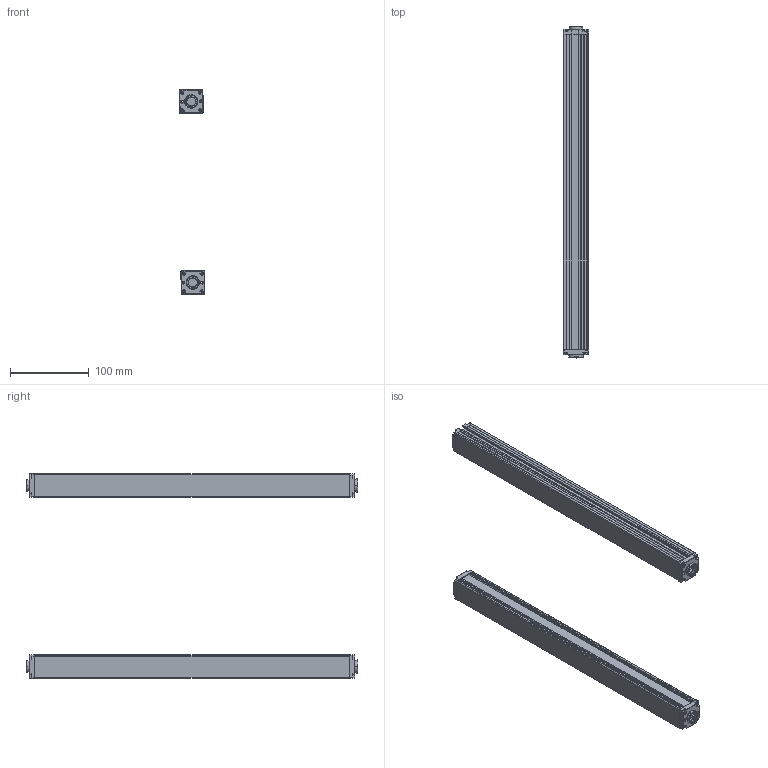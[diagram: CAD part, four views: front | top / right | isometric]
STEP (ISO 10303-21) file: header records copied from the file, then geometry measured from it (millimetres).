
FILE_DESCRIPTION (( 'STEP AP203' ), '1' );
FILE_NAME ('ZDA3810-400.STEP', '2022-08-30T03:45:42', ( 'Windows 蚚誧' ), ( 'Organization' ), 'SwSTEP 2.0', 'SolidWorks 2020', '' );
FILE_SCHEMA (( 'CONFIG_CONTROL_DESIGN' ));
Length unit declared in the file: millimetre
Products named in the file (5): 錨璃8 - 萵掛 (2); 錨璃10; ZDA3810-400; 錨璃1; 錨璃8
Assembly tree (8 placements, depth 2):
  ZDA3810-400
    錨璃1  x2
    錨璃8  x2
    錨璃8 - 萵掛 (2)  x2
    錨璃10  x2
Bounding box: 32.36 x 421.4 x 260.35 mm (x, y, z)
Volume: 260916.4 mm3; surface area: 278010 mm2
Topology: 8 solids, 8 shells, 1032 faces, 2690 edges, 1668 vertices
Faces by surface type: plane 464, cylinder 310, cone 120, bspline 58, torus 48, sphere 32
Entity records: 17901 total; most frequent: CARTESIAN_POINT 4731, ORIENTED_EDGE 2666, DIRECTION 2616, EDGE_CURVE 1333, AXIS2_PLACEMENT_3D 894, VERTEX_POINT 834, VECTOR 828, LINE 828
